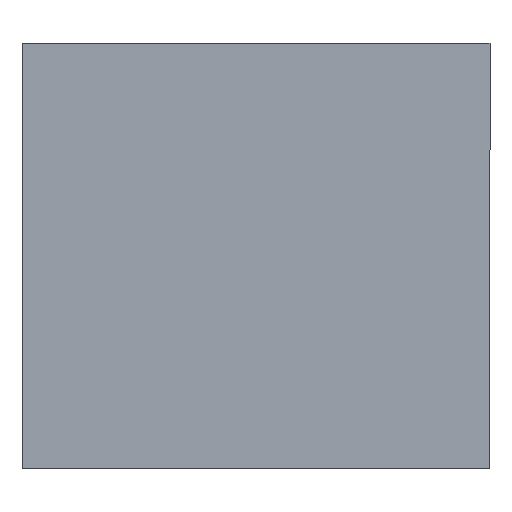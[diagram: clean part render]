
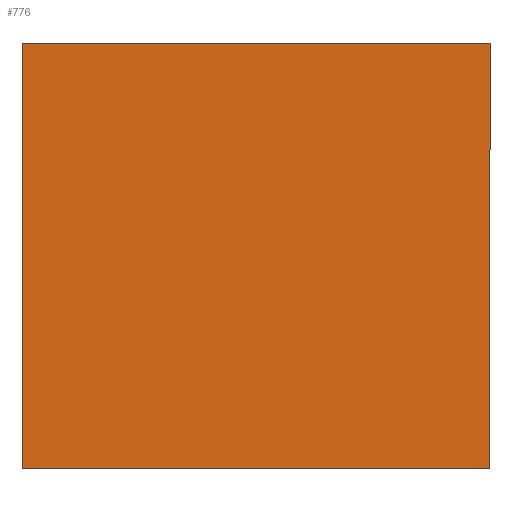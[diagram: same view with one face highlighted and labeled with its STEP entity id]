
A CAD part, front view. The second image highlights one B-rep face of the part: STEP entity #776.
In plain terms, the highlighted planar face has unit normal (0, -1, 0).
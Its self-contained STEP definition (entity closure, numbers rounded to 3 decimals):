
#55 = EDGE_CURVE ( 'NONE', #977, #2994, #1812, .T. ) ;
#112 = VERTEX_POINT ( 'NONE', #2454 ) ;
#134 = ORIENTED_EDGE ( 'NONE', *, *, #886, .F. ) ;
#196 = EDGE_CURVE ( 'NONE', #112, #5246, #1873, .T. ) ;
#199 = DIRECTION ( 'NONE',  ( 0., 0., 1. ) ) ;
#427 = VECTOR ( 'NONE', #199, 1000. ) ;
#520 = VECTOR ( 'NONE', #1434, 1000. ) ;
#674 = CARTESIAN_POINT ( 'NONE',  ( -1.731, -17.438, -19.441 ) ) ;
#761 = CARTESIAN_POINT ( 'NONE',  ( 42.973, -17.438, 21.199 ) ) ;
#776 = ADVANCED_FACE ( 'NONE', ( #3043 ), #3988, .F. ) ;
#886 = EDGE_CURVE ( 'NONE', #5246, #977, #1992, .T. ) ;
#977 = VERTEX_POINT ( 'NONE', #761 ) ;
#1052 = CARTESIAN_POINT ( 'NONE',  ( -1.731, -17.438, 21.199 ) ) ;
#1434 = DIRECTION ( 'NONE',  ( 0., 0., -1. ) ) ;
#1736 = ORIENTED_EDGE ( 'NONE', *, *, #55, .F. ) ;
#1812 = LINE ( 'NONE', #5200, #520 ) ;
#1873 = LINE ( 'NONE', #4436, #427 ) ;
#1992 = LINE ( 'NONE', #5362, #5487 ) ;
#2157 = EDGE_CURVE ( 'NONE', #2994, #112, #4467, .T. ) ;
#2454 = CARTESIAN_POINT ( 'NONE',  ( -1.731, -17.438, -19.441 ) ) ;
#2724 = DIRECTION ( 'NONE',  ( 0., 1., 0. ) ) ;
#2994 = VERTEX_POINT ( 'NONE', #4650 ) ;
#3043 = FACE_OUTER_BOUND ( 'NONE', #5053, .T. ) ;
#3641 = DIRECTION ( 'NONE',  ( -1., 0., 0. ) ) ;
#3843 = ORIENTED_EDGE ( 'NONE', *, *, #2157, .F. ) ;
#3988 = PLANE ( 'NONE',  #4055 ) ;
#4055 = AXIS2_PLACEMENT_3D ( 'NONE', #1052, #2724, #4769 ) ;
#4436 = CARTESIAN_POINT ( 'NONE',  ( -1.731, -17.438, -19.441 ) ) ;
#4467 = LINE ( 'NONE', #674, #4689 ) ;
#4476 = DIRECTION ( 'NONE',  ( 1., 0., 0. ) ) ;
#4650 = CARTESIAN_POINT ( 'NONE',  ( 42.973, -17.438, -19.441 ) ) ;
#4689 = VECTOR ( 'NONE', #3641, 1000. ) ;
#4769 = DIRECTION ( 'NONE',  ( 0., 0., 1. ) ) ;
#4915 = CARTESIAN_POINT ( 'NONE',  ( -1.731, -17.438, 21.199 ) ) ;
#5053 = EDGE_LOOP ( 'NONE', ( #5144, #3843, #1736, #134 ) ) ;
#5144 = ORIENTED_EDGE ( 'NONE', *, *, #196, .F. ) ;
#5200 = CARTESIAN_POINT ( 'NONE',  ( 42.973, -17.438, -19.441 ) ) ;
#5246 = VERTEX_POINT ( 'NONE', #4915 ) ;
#5362 = CARTESIAN_POINT ( 'NONE',  ( -1.731, -17.438, 21.199 ) ) ;
#5487 = VECTOR ( 'NONE', #4476, 1000. ) ;
